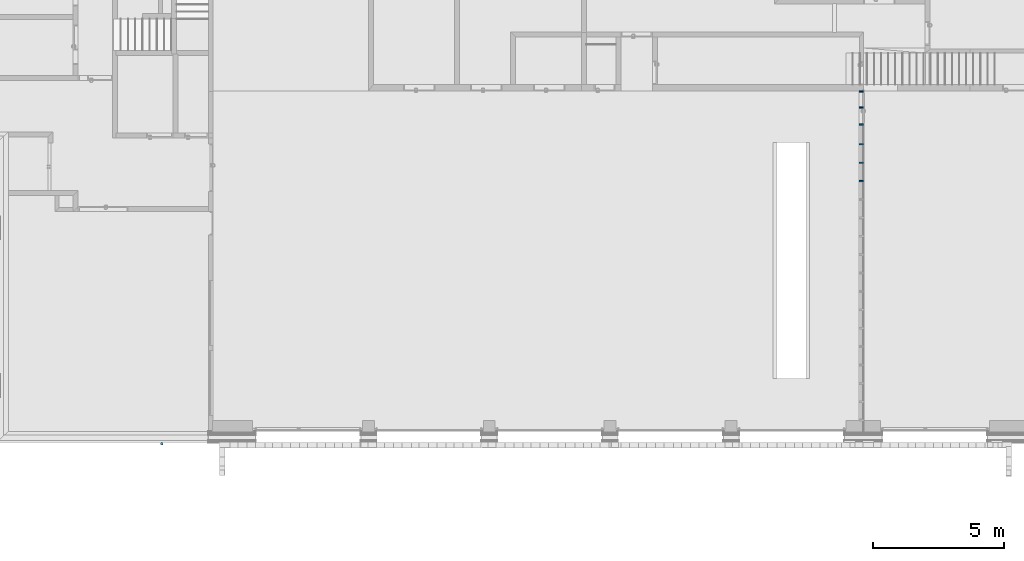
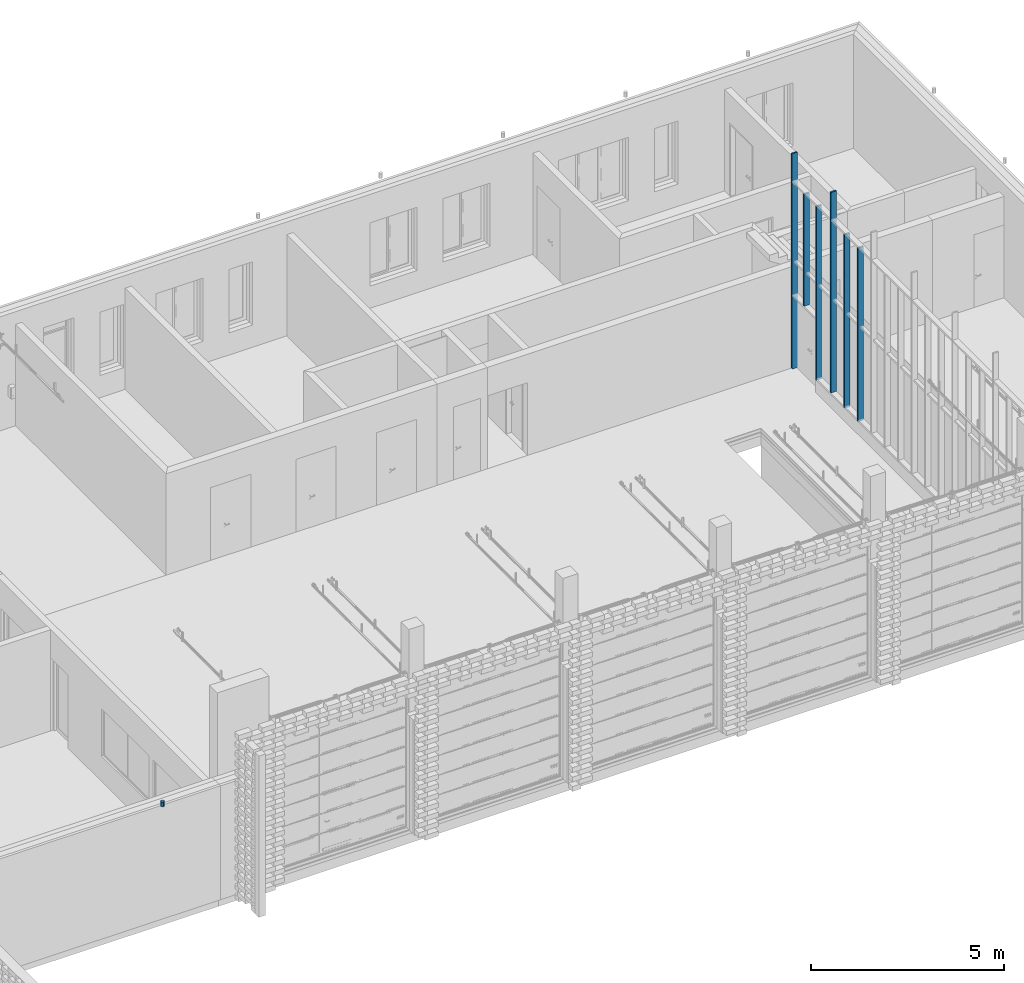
# One storey, part 2 of 62: 7 columns.
"""IFC2X3 building model written with IfcOpenShell, lengths in millimetres."""

from ifc_helpers import new_model, entity, si_unit, converted_unit, derived_unit, money_unit, direction, frame, origin_with_axes, origin_2d_with_axis, place, context, subcontext, project, spatial, rectangle, circle, extrude, material, type_object, element, save


model = new_model("IFC2X3")

# Units and contexts
model_context = context("Model", 3, precision=0.01, world=origin_with_axes(), true_north=direction((0.0, 1.0)))
body_context = subcontext(model_context, "Body", "Model", "MODEL_VIEW")
ifc_project = project(units=[si_unit("LENGTHUNIT", "METRE", prefix="MILLI"), si_unit("AREAUNIT", "SQUARE_METRE"), si_unit("VOLUMEUNIT", "CUBIC_METRE"), converted_unit("PLANEANGLEUNIT", "DEGREE", entity("IfcPlaneAngleMeasure", 0.0174532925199), si_unit("PLANEANGLEUNIT", "RADIAN"), dimensions=[0, 0, 0, 0, 0, 0, 0]), si_unit("SOLIDANGLEUNIT", "STERADIAN"), money_unit("EUR"), converted_unit("TIMEUNIT", "Year", entity("IfcTimeMeasure", 31556926.0), si_unit("TIMEUNIT", "SECOND"), dimensions=[0, 0, 1, 0, 0, 0, 0]), si_unit("MASSUNIT", "GRAM", prefix="KILO"), si_unit("THERMODYNAMICTEMPERATUREUNIT", "DEGREE_CELSIUS"), si_unit("LUMINOUSINTENSITYUNIT", "LUMEN"), si_unit("ENERGYUNIT", "JOULE", prefix="MEGA"), derived_unit("THERMALCONDUCTANCEUNIT", [(si_unit("POWERUNIT", "WATT"), 1), (si_unit("LENGTHUNIT", "METRE"), -1), (si_unit("THERMODYNAMICTEMPERATUREUNIT", "KELVIN"), -1)]), derived_unit("SPECIFICHEATCAPACITYUNIT", [(si_unit("ENERGYUNIT", "JOULE"), 1), (si_unit("MASSUNIT", "GRAM", prefix="KILO"), -1), (si_unit("THERMODYNAMICTEMPERATUREUNIT", "KELVIN"), -1)]), derived_unit("MASSDENSITYUNIT", [(si_unit("MASSUNIT", "GRAM", prefix="KILO"), 1), (si_unit("VOLUMEUNIT", "CUBIC_METRE"), -1)])], contexts=[model_context])

# Site, building, storey
site_placement = place(None, origin_with_axes())
site = spatial("IfcSite", under=ifc_project, at=site_placement, Name="KIRDE 14, ELVA", CompositionType="ELEMENT")
building_placement = place(site_placement, origin_with_axes())
building = spatial("IfcBuilding", under=site, at=building_placement, Name="PPA ja Päästeameti ühishoone", CompositionType="ELEMENT")
storey_placement = place(building_placement, origin_with_axes())
storey = spatial("IfcBuildingStorey", under=building, at=storey_placement, Name="Esimene korrus", CompositionType="ELEMENT", Elevation=0.0)

# Columns
ifc_material_1 = material(Name="SBS Rullmaterjal")
column_type_1 = type_object("IfcColumnType", Name="SBS Rullmaterjal D100", PredefinedType="COLUMN")
column_1_placement = place(storey_placement, frame((7134.66504566, -480.000000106, 3613.05755188), z_axis=(0.0, 0.0, 1.0), x_axis=(1.0, 0.0, 0.0)))
element("IfcColumn", 1, at=column_1_placement, inside=storey, type_object=column_type_1, material=ifc_material_1, Name="RB post", ObjectType="COLUMN", context=body_context, shape_type="SweptSolid", body=[
    extrude(circle(Radius=50.0, at=origin_2d_with_axis()), origin_with_axes(), (0.0, 0.0, 1.0), 150.0),
])
ifc_material_2 = material(Name="GENERIC - STRUCTURAL")
column_type_2 = type_object("IfcColumnType", Name="GENERIC - STRUCTURAL 50 x 160", PredefinedType="COLUMN")
column_2_placement = place(storey_placement, frame((33765.000694, 12935.0005795, 0.0), z_axis=(0.0, 0.0, 1.0), x_axis=(3.98084293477e-10, -1.0, 0.0)))
element("IfcColumn", 2, at=column_2_placement, inside=storey, type_object=column_type_2, material=ifc_material_2, Name="LIIMPUITPOST", ObjectType="COLUMN", context=body_context, shape_type="SweptSolid", body=[
    extrude(rectangle(XDim=50.0, YDim=160.0, at=origin_2d_with_axis()), origin_with_axes(), (0.0, 0.0, 1.0), 6800.0),
])
column_3_placement = place(storey_placement, frame((33765.0006935, 12323.9999043, 2350.0), z_axis=(0.0, 0.0, 1.0), x_axis=(3.98084293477e-10, -1.0, 0.0)))
element("IfcColumn", 3, at=column_3_placement, inside=storey, type_object=column_type_2, material=ifc_material_2, Name="LIIMPUITPOST", ObjectType="COLUMN", context=body_context, shape_type="SweptSolid", body=[
    extrude(rectangle(XDim=50.0, YDim=160.0, at=origin_2d_with_axis()), origin_with_axes(), (0.0, 0.0, 1.0), 3540.0),
])
for number, where, z_axis, x_axis in (
    (4, (33765.0006949, 9523.99992773, 400.0), (0.0, 0.0, 1.0), (3.98084293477e-10, -1.0, 0.0)),
    (5, (33765.0006954, 10223.9999279, 400.0), (0.0, 0.0, 1.0), (3.98084293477e-10, -1.0, 0.0)),
):
    element("IfcColumn", number, at=place(storey_placement, frame(where, z_axis=z_axis, x_axis=x_axis)), inside=storey, type_object=column_type_2, material=ifc_material_2, Name="LIIMPUITPOST", ObjectType="COLUMN", context=body_context, shape_type="SweptSolid", body=[
        extrude(rectangle(XDim=50.0, YDim=160.0, at=origin_2d_with_axis()), origin_with_axes(), (0.0, 0.0, 1.0), 5490.0),
    ])
column_4_placement = place(storey_placement, frame((33765.000694, 10923.9999281, 460.0), z_axis=(0.0, 0.0, 1.0), x_axis=(3.98084293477e-10, -1.0, 0.0)))
element("IfcColumn", 6, at=column_4_placement, inside=storey, type_object=column_type_2, material=ifc_material_2, Name="LIIMPUITPOST", ObjectType="COLUMN", context=body_context, shape_type="SweptSolid", body=[
    extrude(rectangle(XDim=50.0, YDim=160.0, at=origin_2d_with_axis()), origin_with_axes(), (0.0, 0.0, 1.0), 6340.0),
])
column_5_placement = place(storey_placement, frame((33765.0006944, 11685.0005795, 400.0), z_axis=(0.0, 0.0, 1.0), x_axis=(3.98084293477e-10, -1.0, 0.0)))
element("IfcColumn", 7, at=column_5_placement, inside=storey, type_object=column_type_2, material=ifc_material_2, Name="LIIMPUITPOST", ObjectType="COLUMN", context=body_context, shape_type="SweptSolid", body=[
    extrude(rectangle(XDim=50.0, YDim=160.0, at=origin_2d_with_axis()), origin_with_axes(), (0.0, 0.0, 1.0), 5490.0),
])

save(model, "model.ifc")
